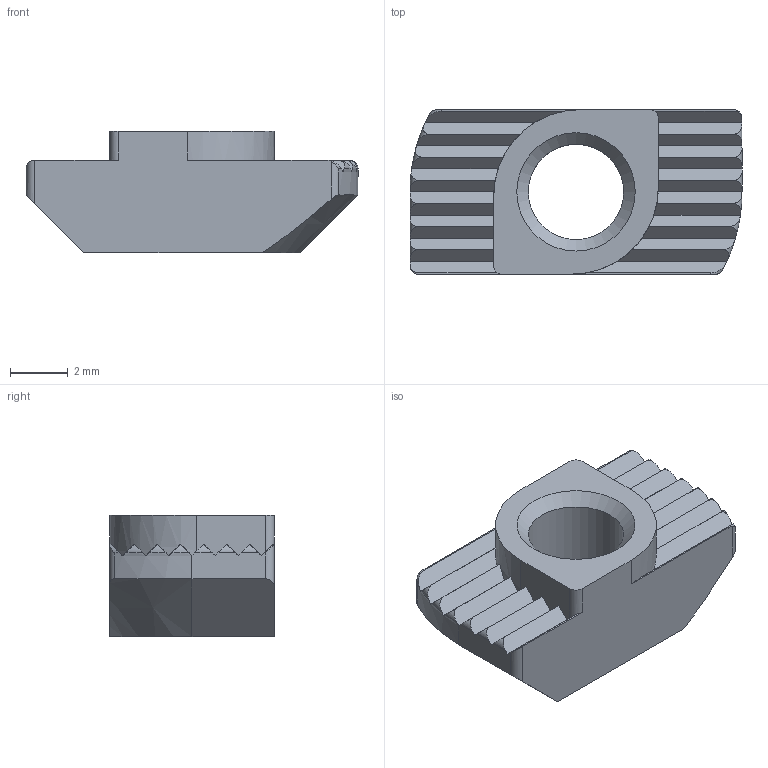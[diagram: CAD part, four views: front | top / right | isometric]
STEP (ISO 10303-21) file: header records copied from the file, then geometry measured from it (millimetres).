
FILE_DESCRIPTION((''),'2;1');
FILE_NAME('E:\Inventor-Dateien\900.FATHTeile\B-Typ\Nut6\T-nut_B-type_slot6\Motedis_T-nut_B-type_slot6.step','2017-11-20T10:53:37',('Jrn'),(''),'Autodesk Inventor 2009','Autodesk Inventor 2009','');
FILE_SCHEMA(('AUTOMOTIVE_DESIGN { 1 0 10303 214 1 1 1 1 }'));
Length unit declared in the file: millimetre
Products named in the file (1): Motedis_T-nut_B-type_slot6
Bounding box: 11.5 x 5.7 x 4.2 mm (x, y, z)
Volume: 165.6 mm3; surface area: 267.6 mm2
Topology: 1 solids, 1 shells, 73 faces, 206 edges, 135 vertices
Faces by surface type: plane 42, cylinder 19, torus 8, cone 4
Full cylindrical faces by diameter (mm): 3.3 x1
Entity records: 2603 total; most frequent: CARTESIAN_POINT 673, DIRECTION 404, ORIENTED_EDGE 404, EDGE_CURVE 202, AXIS2_PLACEMENT_3D 150, VERTEX_POINT 134, VECTOR 104, LINE 104
